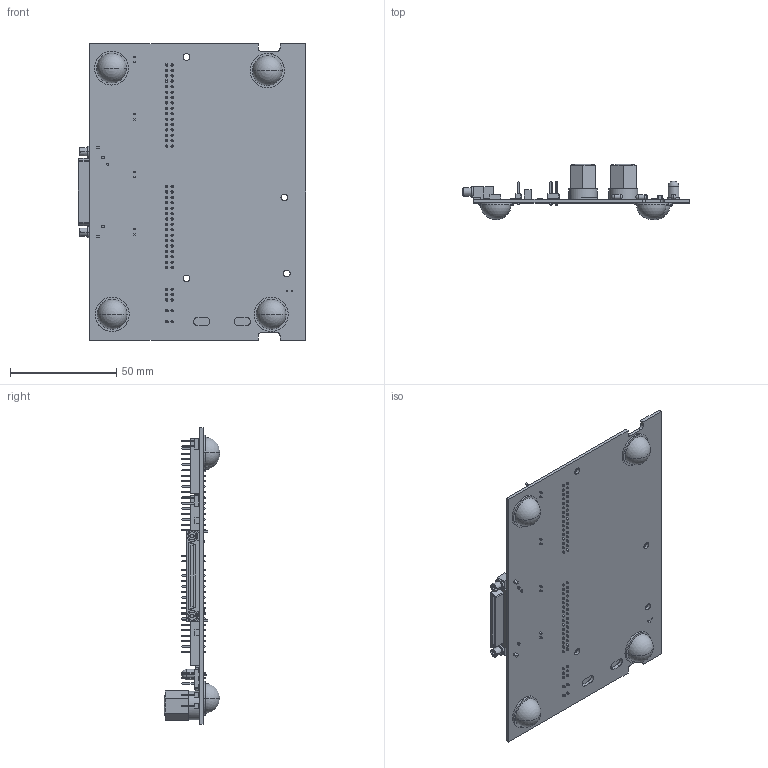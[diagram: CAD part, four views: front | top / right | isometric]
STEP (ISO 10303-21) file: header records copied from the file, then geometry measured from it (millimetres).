
FILE_DESCRIPTION((''),'2;1');
FILE_NAME('CU_CB-2162','2007-08-13T',('lmcdanie'),(''),'PRO/ENGINEER BY PARAMETRIC TECHNOLOGY CORPORATION, 2006080','PRO/ENGINEER BY PARAMETRIC TECHNOLOGY CORPORATION, 2006080','');
FILE_SCHEMA(('CONFIG_CONTROL_DESIGN'));
Products named in the file (1): CU_CB-2162
Bounding box: 107 x 26.1 x 139.7 mm (x, y, z)
Volume: 34820.6 mm3; surface area: 38987.4 mm2
Topology: 7 solids, 7 shells, 3980 faces, 10462 edges, 6399 vertices
Faces by surface type: plane 3672, cylinder 262, sphere 38, cone 4, torus 4
Entity records: 119446 total; most frequent: ORIENTED_EDGE 20856, CARTESIAN_POINT 20807, DIRECTION 19042, EDGE_CURVE 10428, VECTOR 9774, LINE 9774, VERTEX_POINT 6399, AXIS2_PLACEMENT_3D 4634
